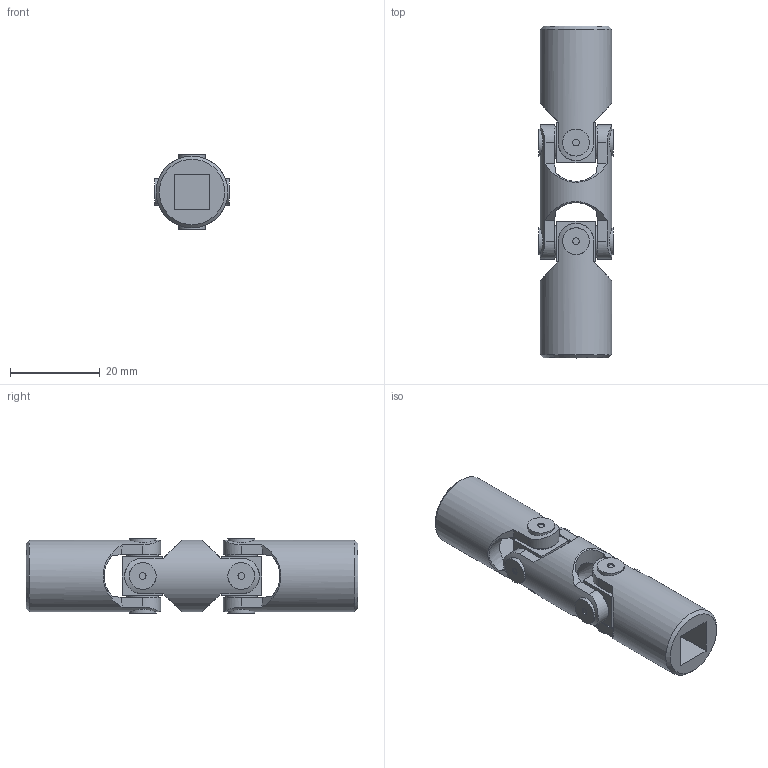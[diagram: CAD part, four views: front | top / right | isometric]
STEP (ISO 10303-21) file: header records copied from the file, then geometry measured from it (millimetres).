
FILE_DESCRIPTION(/* description */ (''),/* implementation_level */ '2;1');
FILE_NAME(/* name */ '\\SRV2016\Societa\Stefano\Disegni 3D\00Catalogo 3D\02Doppi GD-GBD\SGBD082Q.stp',/* time_stamp */ '2021-11-22T17:01:04+01:00',/* author */ ('acquisti'),/* organization */ (''),/* preprocessor_version */ 'ST-DEVELOPER v15.6',/* originating_system */ 'Autodesk Inventor 2015',/* authorisation */ '');
FILE_SCHEMA (('AUTOMOTIVE_DESIGN { 1 0 10303 214 3 1 1 }'));
Length unit declared in the file: millimetre
Products named in the file (4): 01G MOD; 01-02G SFE; 03GB MOQ; Ø16_03GBD-00_SGBD1000
Assembly tree (5 placements, depth 2):
  Ø16_03GBD-00_SGBD1000
    01G MOD
    01-02G SFE  x2
    03GB MOQ  x2
Bounding box: 16.7 x 74 x 16.7 mm (x, y, z)
Volume: 9698.4 mm3; surface area: 7155 mm2
Topology: 5 solids, 5 shells, 155 faces, 397 edges, 272 vertices
Faces by surface type: plane 78, cylinder 45, cone 28, torus 4
Full cylindrical faces by diameter (mm): 1.5 x8, 6 x8, 7 x8, 8.5 x2, 16 x3
Entity records: 3542 total; most frequent: CARTESIAN_POINT 1229, ORIENTED_EDGE 452, DIRECTION 438, EDGE_CURVE 226, AXIS2_PLACEMENT_3D 187, VERTEX_POINT 168, EDGE_LOOP 146, FACE_OUTER_BOUND 103
